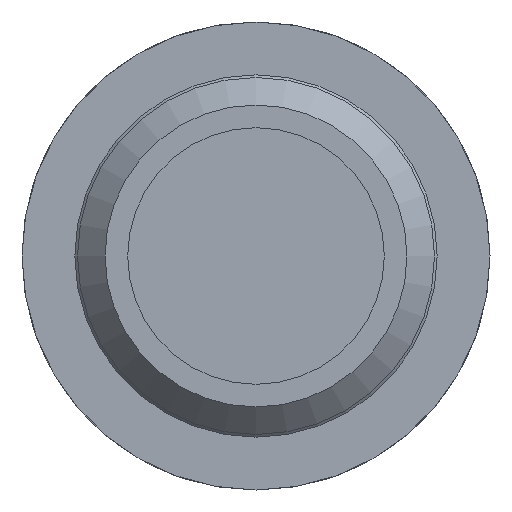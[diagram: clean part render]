
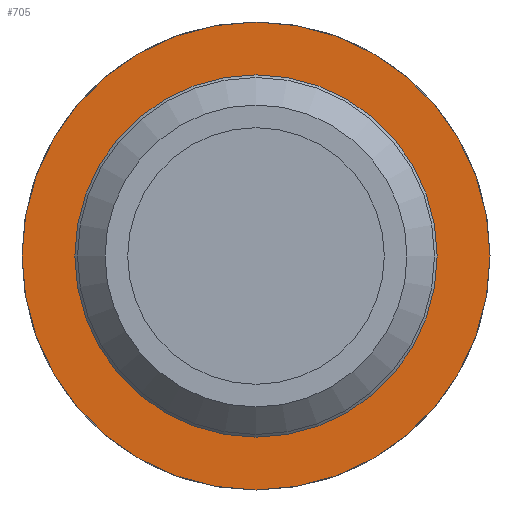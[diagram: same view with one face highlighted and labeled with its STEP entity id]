
A CAD part, left-side view. The second image highlights one B-rep face of the part: STEP entity #705.
In plain terms, the highlighted planar face has unit normal (-1, 0, 0).
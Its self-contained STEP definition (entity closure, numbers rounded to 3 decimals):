
#89=PLANE($,#808);
#109=FACE_BOUND($,#208,.T.);
#151=FACE_OUTER_BOUND($,#207,.T.);
#207=EDGE_LOOP($,(#550));
#208=EDGE_LOOP($,(#551));
#269=CIRCLE($,#807,24.);
#270=CIRCLE($,#809,31.);
#334=VERTEX_POINT($,#1407);
#335=VERTEX_POINT($,#1410);
#423=EDGE_CURVE($,#334,#334,#269,.T.);
#424=EDGE_CURVE($,#335,#335,#270,.T.);
#550=ORIENTED_EDGE($,*,*,#424,.F.);
#551=ORIENTED_EDGE($,*,*,#423,.T.);
#705=ADVANCED_FACE($,(#151,#109),#89,.T.);
#807=AXIS2_PLACEMENT_3D($,#1408,#1021,#1022);
#808=AXIS2_PLACEMENT_3D($,#1409,#1023,#1024);
#809=AXIS2_PLACEMENT_3D($,#1411,#1025,#1026);
#1021=DIRECTION('center_axis',(1.,0.,0.));
#1022=DIRECTION('ref_axis',(0.,1.,0.));
#1023=DIRECTION('center_axis',(-1.,0.,0.));
#1024=DIRECTION('ref_axis',(0.,0.,1.));
#1025=DIRECTION('center_axis',(1.,0.,0.));
#1026=DIRECTION('ref_axis',(0.,1.,0.));
#1407=CARTESIAN_POINT('',(-33.,24.,0.));
#1408=CARTESIAN_POINT('Origin',(-33.,0.,0.));
#1409=CARTESIAN_POINT('Origin',(-33.,27.5,0.));
#1410=CARTESIAN_POINT('',(-33.,31.,0.));
#1411=CARTESIAN_POINT('Origin',(-33.,0.,0.));
